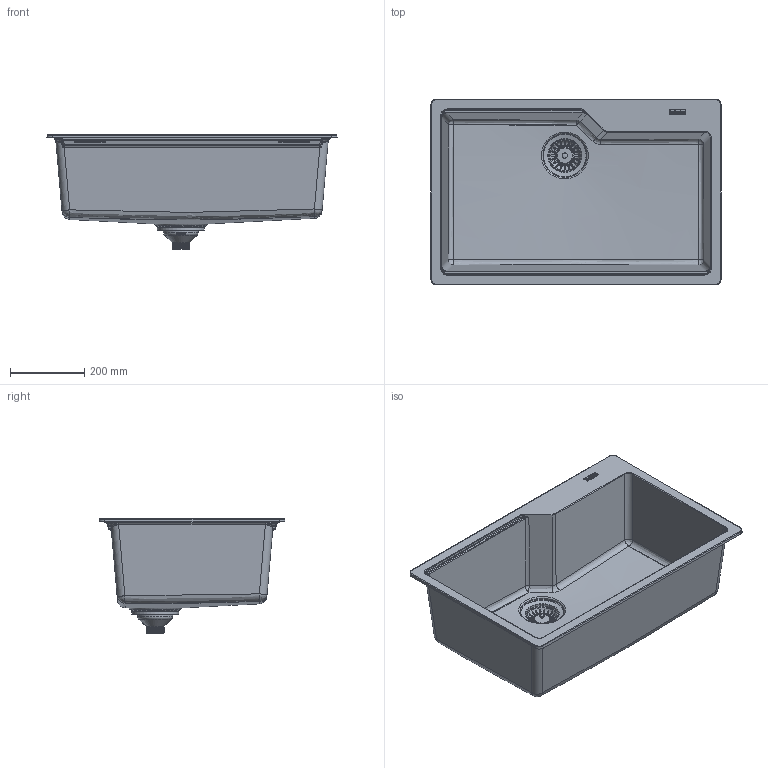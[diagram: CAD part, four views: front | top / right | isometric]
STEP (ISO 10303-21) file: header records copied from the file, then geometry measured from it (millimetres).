
FILE_DESCRIPTION(/* description */ (''),/* implementation_level */ '2;1');
FILE_NAME(/* name */ '3D001_Sinks_Urban_UBG-610-72',/* time_stamp */ '2024-07-01T10:57:17+02:00',/* author */ (''),/* organization */ (''),/* preprocessor_version */ 'ST-DEVELOPER v19.2',/* originating_system */ 'Rhino 8.7',/* authorisation */ '');
FILE_SCHEMA (('CONFIG_CONTROL_DESIGN'));
Length unit declared in the file: millimetre
Products named in the file (2): Document; 20255809_ipt_000
Bounding box: 780 x 500 x 307.16 mm (x, y, z)
Surface area: 1693615.1 mm2
Topology: 5 solids, 16 shells, 969 faces, 2850 edges, 1825 vertices
Faces by surface type: plane 577, bspline 221, cylinder 171
Full cylindrical faces by diameter (mm): 4.125 x1, 14.3 x1, 30 x3, 36 x1, 41 x3, 45 x1, 45.5 x1, 47.4 x4, 84 x1, 119 x1, 126 x1
Entity records: 45643 total; most frequent: CARTESIAN_POINT 24590, ORIENTED_EDGE 5403, EDGE_CURVE 2832, DIRECTION 2228, B_SPLINE_CURVE_WITH_KNOTS 1883, VERTEX_POINT 1825, AXIS2_PLACEMENT_3D 1488, EDGE_LOOP 1017
